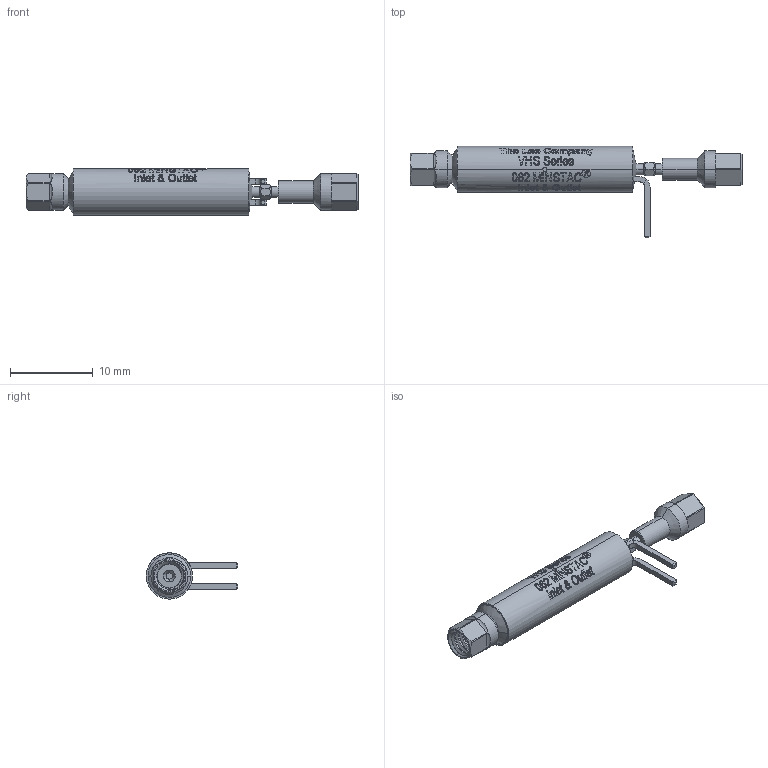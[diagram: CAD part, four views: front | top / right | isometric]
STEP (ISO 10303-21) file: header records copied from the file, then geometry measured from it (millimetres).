
FILE_DESCRIPTION (( 'STEP AP214' ), '1' );
FILE_NAME ('Lee-VHS_Series_MM-CAD_Model A5.step', '2021-03-05T15:17:45', ( '' ), ( '' ), 'SwSTEP 2.0', 'SolidWorks 2019', '' );
FILE_SCHEMA (( 'AUTOMOTIVE_DESIGN' ));
Length unit declared in the file: inch
Products named in the file (1): Lee-VHS_Series_MM-CAD_Model A5
Bounding box: 40.11 x 11.05 x 5.59 mm (x, y, z)
Volume: 633.3 mm3; surface area: 848.1 mm2
Topology: 1 solids, 1 shells, 790 faces, 2195 edges, 1479 vertices
Faces by surface type: bspline 370, plane 269, cylinder 119, cone 28, torus 2, sphere 2
Entity records: 61552 total; most frequent: CARTESIAN_POINT 34915, ORIENTED_EDGE 4390, EDGE_CURVE 2195, DIRECTION 1964, VERTEX_POINT 1479, B_SPLINE_CURVE_WITH_KNOTS 1365, EDGE_LOOP 862, FACE_OUTER_BOUND 790
